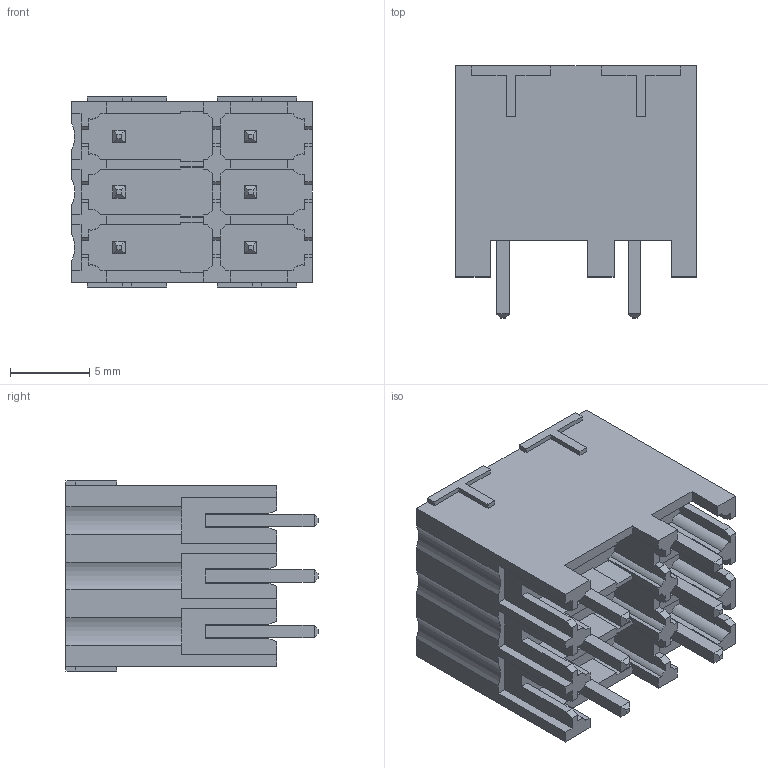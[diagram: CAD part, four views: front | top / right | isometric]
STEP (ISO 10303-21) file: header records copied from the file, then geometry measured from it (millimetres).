
FILE_DESCRIPTION((''),'2;1');
FILE_NAME('333','2019-04-12T',('zhenbing.lai'),(''),'CREO PARAMETRIC BY PTC INC, 2016260','CREO PARAMETRIC BY PTC INC, 2016260','');
FILE_SCHEMA(('CONFIG_CONTROL_DESIGN'));
Length unit declared in the file: millimetre
Products named in the file (1): 333
Bounding box: 15.2 x 15.9 x 12 mm (x, y, z)
Volume: 1118.3 mm3; surface area: 2504.2 mm2
Topology: 1 solids, 1 shells, 597 faces, 1641 edges, 1067 vertices
Faces by surface type: plane 555, cylinder 36, cone 6
Entity records: 18620 total; most frequent: CARTESIAN_POINT 3359, ORIENTED_EDGE 3282, DIRECTION 2928, EDGE_CURVE 1641, VECTOR 1524, LINE 1524, VERTEX_POINT 1067, AXIS2_PLACEMENT_3D 702
